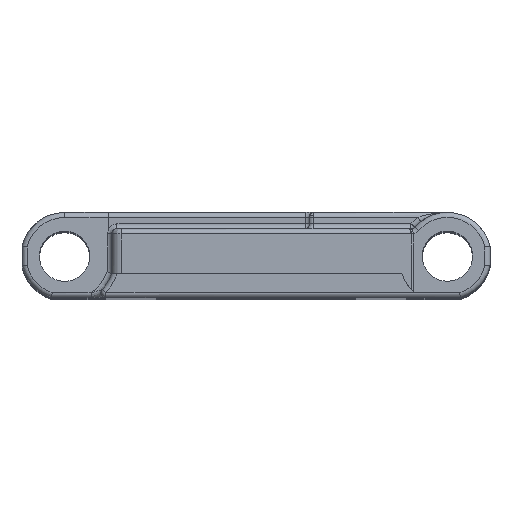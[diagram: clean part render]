
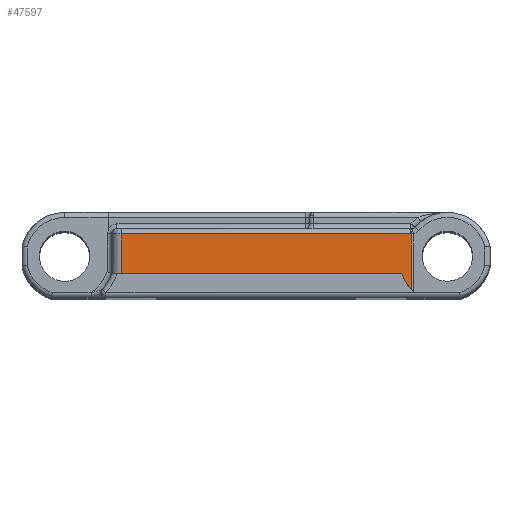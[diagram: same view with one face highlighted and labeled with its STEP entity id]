
A CAD part, top view. The second image highlights one B-rep face of the part: STEP entity #47597.
In plain terms, the highlighted planar face has unit normal (0, 0, 1).
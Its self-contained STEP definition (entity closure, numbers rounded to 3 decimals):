
#7918=DIRECTION('',(0.,1.,0.));
#7919=VECTOR('',#7918,5.538);
#7920=CARTESIAN_POINT('',(15.45,-3.325,50.75));
#7921=LINE('',#7920,#7919);
#7926=DIRECTION('',(0.,1.,0.));
#7927=VECTOR('',#7926,3.963);
#7928=CARTESIAN_POINT('',(-13.366,-1.75,50.75));
#7929=LINE('',#7928,#7927);
#7930=CARTESIAN_POINT('',(19.25,0.,50.75));
#7931=DIRECTION('',(0.,0.,1.));
#7932=DIRECTION('',(-0.938,-0.347,0.));
#7933=AXIS2_PLACEMENT_3D('',#7930,#7931,#7932);
#7944=DIRECTION('',(1.,0.,0.));
#7945=VECTOR('',#7944,27.88);
#7946=CARTESIAN_POINT('',(-13.366,-1.75,50.75));
#7947=LINE('',#7946,#7945);
#22262=CARTESIAN_POINT('',(15.417,3.213,50.75));
#22263=DIRECTION('',(0.,0.,-1.));
#22264=DIRECTION('',(0.033,-0.999,0.));
#22265=AXIS2_PLACEMENT_3D('',#22262,#22263,#22264);
#22267=DIRECTION('',(-1.,0.,0.));
#22268=VECTOR('',#22267,28.784);
#22269=CARTESIAN_POINT('',(15.417,2.213,50.75));
#22270=LINE('',#22269,#22268);
#34287=CARTESIAN_POINT('',(-13.366,-1.75,50.75));
#34288=CARTESIAN_POINT('',(-13.366,2.213,50.75));
#34289=VERTEX_POINT('',#34287);
#34290=VERTEX_POINT('',#34288);
#34389=CARTESIAN_POINT('',(15.417,2.213,50.75));
#34390=VERTEX_POINT('',#34389);
#40028=CARTESIAN_POINT('',(14.514,-1.75,50.75));
#40030=VERTEX_POINT('',#40028);
#40035=CARTESIAN_POINT('',(15.45,-3.325,50.75));
#40036=VERTEX_POINT('',#40035);
#40075=CARTESIAN_POINT('',(15.45,2.214,50.75));
#40076=VERTEX_POINT('',#40075);
#47579=CARTESIAN_POINT('',(-13.366,-1.75,50.75));
#47580=DIRECTION('',(0.,0.,1.));
#47581=DIRECTION('',(1.,0.,0.));
#47582=AXIS2_PLACEMENT_3D('',#47579,#47580,#47581);
#47583=PLANE('',#47582);
#47585=ORIENTED_EDGE('',*,*,#47584,.T.);
#47587=ORIENTED_EDGE('',*,*,#47586,.F.);
#47589=ORIENTED_EDGE('',*,*,#47588,.F.);
#47590=ORIENTED_EDGE('',*,*,#47569,.F.);
#47592=ORIENTED_EDGE('',*,*,#47591,.F.);
#47594=ORIENTED_EDGE('',*,*,#47593,.F.);
#47595=EDGE_LOOP('',(#47585,#47587,#47589,#47590,#47592,#47594));
#47596=FACE_OUTER_BOUND('',#47595,.F.);
#7934=CIRCLE('',#7933,5.049);
#22266=CIRCLE('',#22265,1.);
#47569=EDGE_CURVE('',#40036,#40076,#7921,.T.);
#47584=EDGE_CURVE('',#34289,#34290,#7929,.T.);
#47586=EDGE_CURVE('',#34390,#34290,#22270,.T.);
#47588=EDGE_CURVE('',#40076,#34390,#22266,.T.);
#47591=EDGE_CURVE('',#40030,#40036,#7934,.T.);
#47593=EDGE_CURVE('',#34289,#40030,#7947,.T.);
#47597=ADVANCED_FACE('',(#47596),#47583,.T.);
